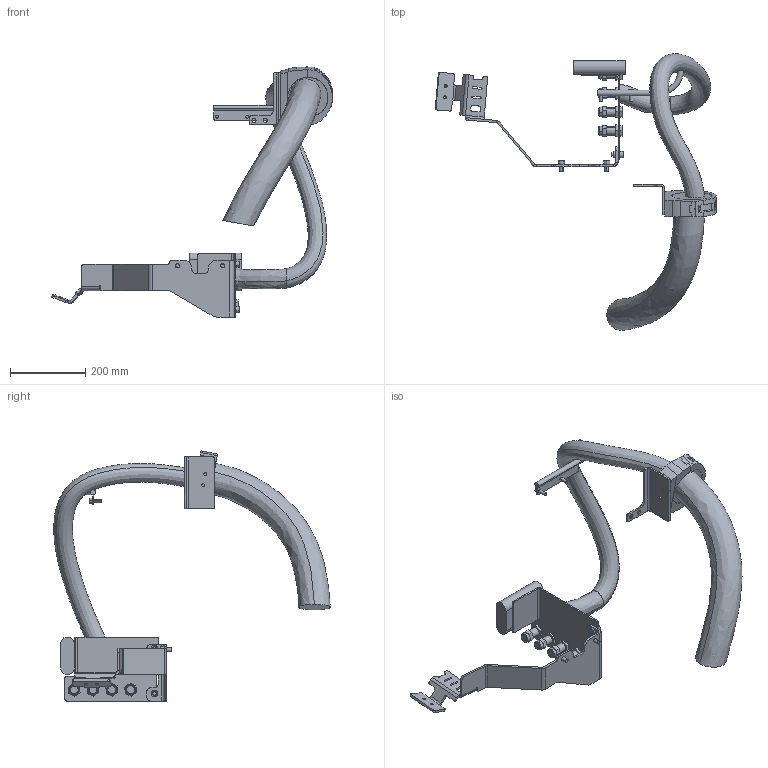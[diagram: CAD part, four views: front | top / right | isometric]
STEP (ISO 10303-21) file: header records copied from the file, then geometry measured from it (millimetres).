
FILE_DESCRIPTION (( 'STEP AP214' ), '1' );
FILE_NAME ('IRB6720-LID-SW_215kg-265_OC_00_LINK03a_CABLE.step', '2026-05-26T08:17:15', ( '' ), ( '' ), 'SwSTEP 2.0', 'SolidWorks 2024', '' );
FILE_SCHEMA (( 'AUTOMOTIVE_DESIGN' ));
Length unit declared in the file: millimetre
Products named in the file (1): IRB6720-LID-SW_215kg-265_OC_00_LINK03a_CABLE
Bounding box: 747.03 x 733.95 x 663.9 mm (x, y, z)
Volume: 6730370 mm3; surface area: 681227.2 mm2
Topology: 1 solids, 5 shells, 581 faces, 1440 edges, 926 vertices
Faces by surface type: plane 343, cylinder 194, cone 24, torus 10, bspline 10
Entity records: 67409 total; most frequent: CARTESIAN_POINT 47003, DIRECTION 2940, ORIENTED_EDGE 2880, EDGE_CURVE 1440, AXIS2_PLACEMENT_3D 1035, VERTEX_POINT 926, VECTOR 870, LINE 870
